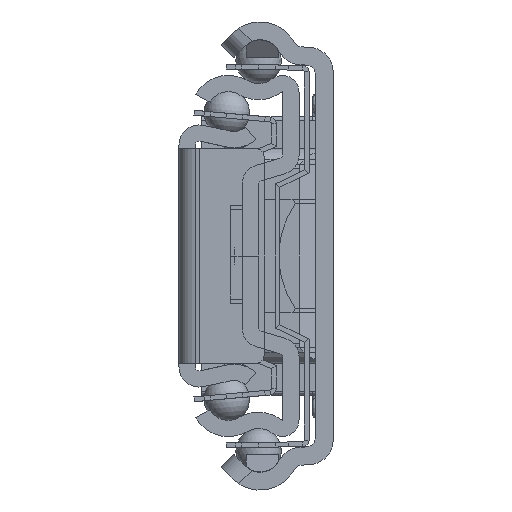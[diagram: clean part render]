
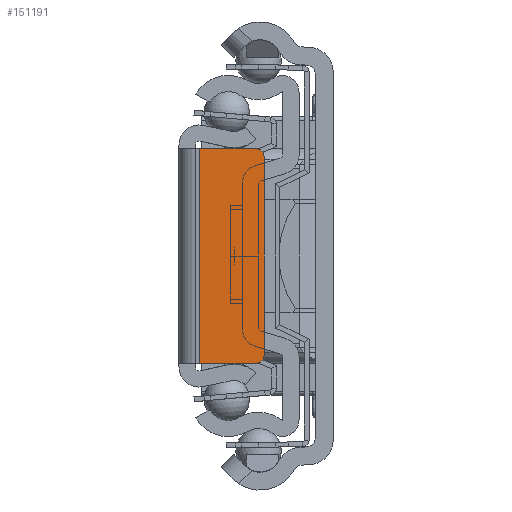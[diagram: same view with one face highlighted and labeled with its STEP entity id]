
A CAD part, left-side view. The second image highlights one B-rep face of the part: STEP entity #151191.
In plain terms, the highlighted planar face has unit normal (-1, 0, 0).
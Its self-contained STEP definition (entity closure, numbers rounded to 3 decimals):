
#146962=CARTESIAN_POINT('',(0.,-9.,-12.25));
#146963=DIRECTION('',(-1.,0.,0.));
#146964=DIRECTION('',(0.,0.,-1.));
#146965=AXIS2_PLACEMENT_3D('',#146962,#146963,#146964);
#146967=DIRECTION('',(0.,0.,-1.));
#146968=VECTOR('',#146967,26.5);
#146969=CARTESIAN_POINT('',(0.,-2.,13.25));
#146970=LINE('',#146969,#146968);
#146971=CARTESIAN_POINT('',(0.,-9.,12.25));
#146972=DIRECTION('',(-1.,0.,0.));
#146973=DIRECTION('',(0.,-1.,0.));
#146974=AXIS2_PLACEMENT_3D('',#146971,#146972,#146973);
#146993=DIRECTION('',(0.,-1.,0.));
#146994=VECTOR('',#146993,7.);
#146995=CARTESIAN_POINT('',(0.,-2.,-13.25));
#146996=LINE('',#146995,#146994);
#147753=DIRECTION('',(0.,-1.,0.));
#147754=VECTOR('',#147753,7.);
#147755=CARTESIAN_POINT('',(0.,-2.,13.25));
#147756=LINE('',#147755,#147754);
#147774=DIRECTION('',(0.,0.,1.));
#147775=VECTOR('',#147774,24.5);
#147776=CARTESIAN_POINT('',(0.,-10.,-12.25));
#147777=LINE('',#147776,#147775);
#150296=CARTESIAN_POINT('',(0.,-2.,-13.25));
#150298=VERTEX_POINT('',#150296);
#150305=CARTESIAN_POINT('',(0.,-2.,13.25));
#150307=VERTEX_POINT('',#150305);
#150324=CARTESIAN_POINT('',(0.,-9.,-13.25));
#150325=CARTESIAN_POINT('',(0.,-10.,-12.25));
#150326=VERTEX_POINT('',#150324);
#150327=VERTEX_POINT('',#150325);
#150336=CARTESIAN_POINT('',(0.,-10.,12.25));
#150337=VERTEX_POINT('',#150336);
#150338=CARTESIAN_POINT('',(0.,-9.,13.25));
#150339=VERTEX_POINT('',#150338);
#151173=CARTESIAN_POINT('',(0.,0.5,-13.25));
#151174=DIRECTION('',(-1.,0.,0.));
#151175=DIRECTION('',(0.,-1.,0.));
#151176=AXIS2_PLACEMENT_3D('',#151173,#151174,#151175);
#151177=PLANE('',#151176);
#151178=ORIENTED_EDGE('',*,*,#151163,.F.);
#151180=ORIENTED_EDGE('',*,*,#151179,.F.);
#151182=ORIENTED_EDGE('',*,*,#151181,.F.);
#151184=ORIENTED_EDGE('',*,*,#151183,.T.);
#151186=ORIENTED_EDGE('',*,*,#151185,.F.);
#151188=ORIENTED_EDGE('',*,*,#151187,.F.);
#151189=EDGE_LOOP('',(#151178,#151180,#151182,#151184,#151186,#151188));
#151190=FACE_OUTER_BOUND('',#151189,.F.);
#146966=CIRCLE('',#146965,1.);
#146975=CIRCLE('',#146974,1.);
#151163=EDGE_CURVE('',#150326,#150327,#146966,.T.);
#151179=EDGE_CURVE('',#150298,#150326,#146996,.T.);
#151181=EDGE_CURVE('',#150307,#150298,#146970,.T.);
#151183=EDGE_CURVE('',#150307,#150339,#147756,.T.);
#151185=EDGE_CURVE('',#150337,#150339,#146975,.T.);
#151187=EDGE_CURVE('',#150327,#150337,#147777,.T.);
#151191=ADVANCED_FACE('',(#151190),#151177,.T.);
